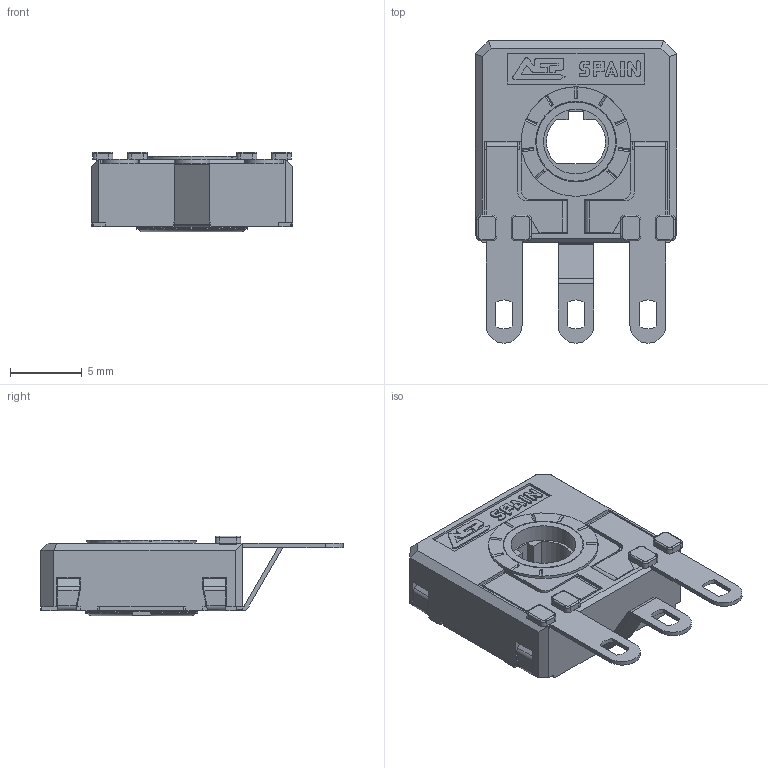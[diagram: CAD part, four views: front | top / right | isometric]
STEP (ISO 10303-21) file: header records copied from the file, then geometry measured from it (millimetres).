
FILE_DESCRIPTION(/* description */ (''),/* implementation_level */ '2;1');
FILE_NAME(/* name */ 'C:\Users\CEM\Desktop\ENVIAR\TRANSICION 3D CATALOGOS\RS14THC0.stp',/* time_stamp */ '2025-12-10T11:29:49+01:00',/* author */ ('CEM'),/* organization */ (''),/* preprocessor_version */ 'ST-DEVELOPER v16.13',/* originating_system */ 'Autodesk Inventor 2018',/* authorisation */ '');
FILE_SCHEMA (('AUTOMOTIVE_DESIGN { 1 0 10303 214 3 1 1 }'));
Length unit declared in the file: millimetre
Products named in the file (1): CARCASA CA14 PGA
Bounding box: 14 x 21 x 5.55 mm (x, y, z)
Volume: 523.8 mm3; surface area: 1475 mm2
Topology: 1 solids, 1 shells, 658 faces, 1848 edges, 1187 vertices
Faces by surface type: plane 477, cylinder 144, torus 23, bspline 8, cone 6
Full cylindrical faces by diameter (mm): 4.5 x1, 5.5 x1, 5.6 x1, 5.752 x1, 6.8 x1, 7.6 x1
Entity records: 21283 total; most frequent: CARTESIAN_POINT 3886, ORIENTED_EDGE 3666, DIRECTION 3479, EDGE_CURVE 1833, LINE 1433, VECTOR 1433, VERTEX_POINT 1182, AXIS2_PLACEMENT_3D 1023
